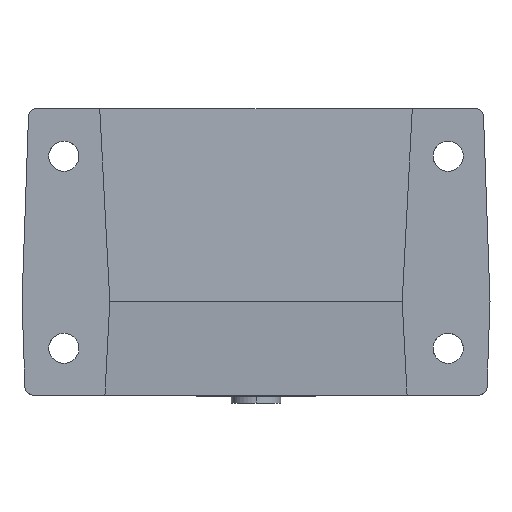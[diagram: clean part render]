
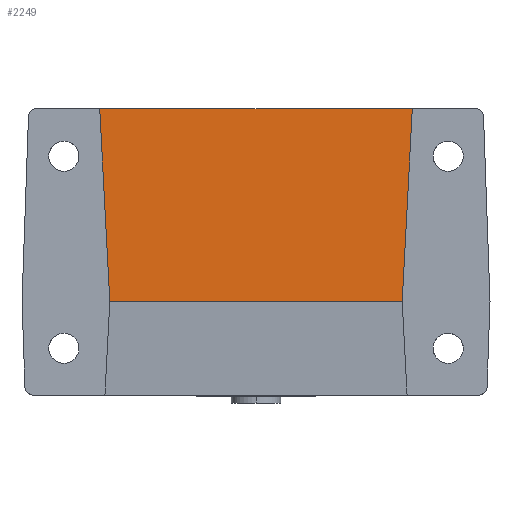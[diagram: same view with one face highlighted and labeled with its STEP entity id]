
A CAD part, front view. The second image highlights one B-rep face of the part: STEP entity #2249.
In plain terms, the highlighted planar face has unit normal (0, -1, 0.025).
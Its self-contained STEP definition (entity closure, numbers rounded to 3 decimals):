
#591=DIRECTION('',(-1.,0.,0.));
#592=VECTOR('',#591,113.869);
#593=CARTESIAN_POINT('',(56.934,-42.782,81.8));
#594=LINE('',#593,#592);
#934=DIRECTION('',(-0.052,-0.025,-0.998));
#935=VECTOR('',#934,70.419);
#936=CARTESIAN_POINT('',(56.934,-42.782,81.8));
#937=LINE('',#936,#935);
#938=DIRECTION('',(-1.,0.,0.));
#939=VECTOR('',#938,106.5);
#940=CARTESIAN_POINT('',(53.25,-44.564,11.5));
#941=LINE('',#940,#939);
#942=DIRECTION('',(-0.052,0.025,0.998));
#943=VECTOR('',#942,70.419);
#944=CARTESIAN_POINT('',(-53.25,-44.564,11.5));
#945=LINE('',#944,#943);
#1069=CARTESIAN_POINT('',(56.934,-42.782,81.8));
#1070=VERTEX_POINT('',#1069);
#1071=CARTESIAN_POINT('',(-56.934,-42.782,81.8));
#1072=VERTEX_POINT('',#1071);
#1112=CARTESIAN_POINT('',(-53.25,-44.564,11.5));
#1113=VERTEX_POINT('',#1112);
#1114=CARTESIAN_POINT('',(53.25,-44.564,11.5));
#1115=VERTEX_POINT('',#1114);
#2237=CARTESIAN_POINT('',(-85.25,-42.782,81.8));
#2238=DIRECTION('',(0.,-1.,0.025));
#2239=DIRECTION('',(0.,-0.025,-1.));
#2240=AXIS2_PLACEMENT_3D('',#2237,#2238,#2239);
#2241=PLANE('',#2240);
#2242=ORIENTED_EDGE('',*,*,#1889,.F.);
#2244=ORIENTED_EDGE('',*,*,#2243,.T.);
#2245=ORIENTED_EDGE('',*,*,#2160,.T.);
#2246=ORIENTED_EDGE('',*,*,#2229,.T.);
#2247=EDGE_LOOP('',(#2242,#2244,#2245,#2246));
#2248=FACE_OUTER_BOUND('',#2247,.F.);
#2249=ADVANCED_FACE('',(#2248),#2241,.T.);
#1889=EDGE_CURVE('',#1070,#1072,#594,.T.);
#2160=EDGE_CURVE('',#1115,#1113,#941,.T.);
#2229=EDGE_CURVE('',#1113,#1072,#945,.T.);
#2243=EDGE_CURVE('',#1070,#1115,#937,.T.);
